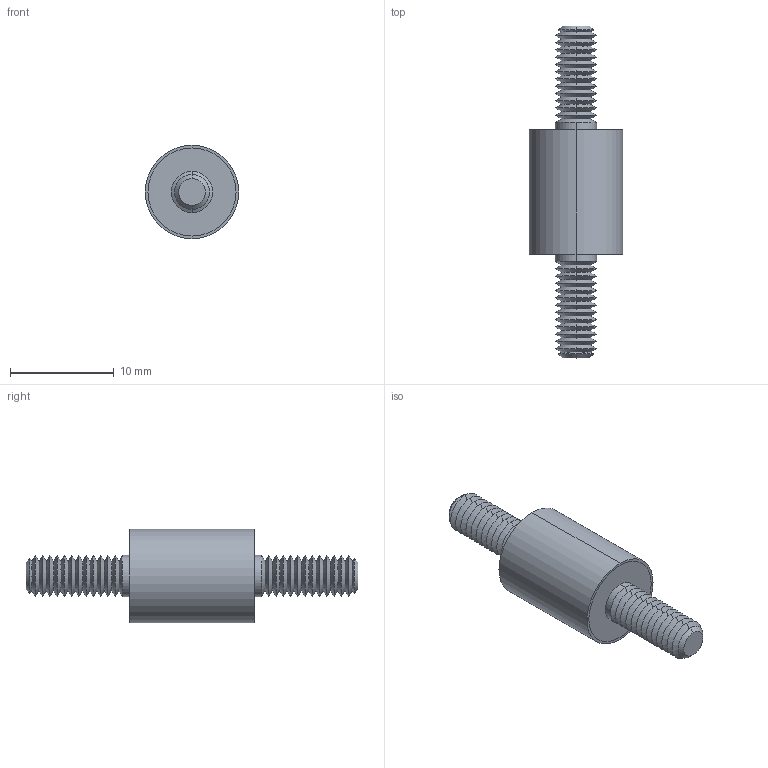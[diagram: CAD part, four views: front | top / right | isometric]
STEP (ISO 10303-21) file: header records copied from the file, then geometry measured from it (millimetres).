
FILE_DESCRIPTION (( 'STEP AP203' ), '1' );
FILE_NAME ('61040.W0091.step', '2019-09-24T22:22:49', ( '' ), ( '' ), 'SwSTEP 2.0', 'SolidWorks 2017', '' );
FILE_SCHEMA (( 'CONFIG_CONTROL_DESIGN' ));
Length unit declared in the file: millimetre
Products named in the file (4): Part1_61040.W0091; 61040.W0091; Part3_61040.W0091; Part2_61040.W0091
Assembly tree (3 placements, depth 2):
  61040.W0091
    Part1_61040.W0091
    Part2_61040.W0091
    Part3_61040.W0091
Bounding box: 9 x 32 x 9 mm (x, y, z)
Volume: 948.9 mm3; surface area: 1139.8 mm2
Topology: 3 solids, 3 shells, 132 faces, 258 edges, 136 vertices
Faces by surface type: cone 108, cylinder 14, plane 10
Entity records: 3708 total; most frequent: DIRECTION 670, CARTESIAN_POINT 532, ORIENTED_EDGE 516, AXIS2_PLACEMENT_3D 274, EDGE_CURVE 258, CIRCLE 136, VERTEX_POINT 136, EDGE_LOOP 136
